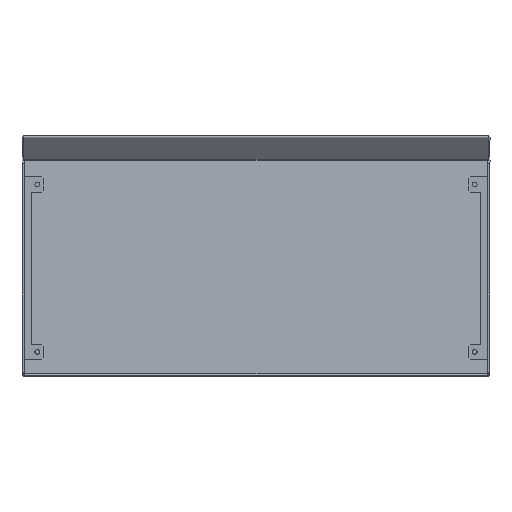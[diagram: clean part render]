
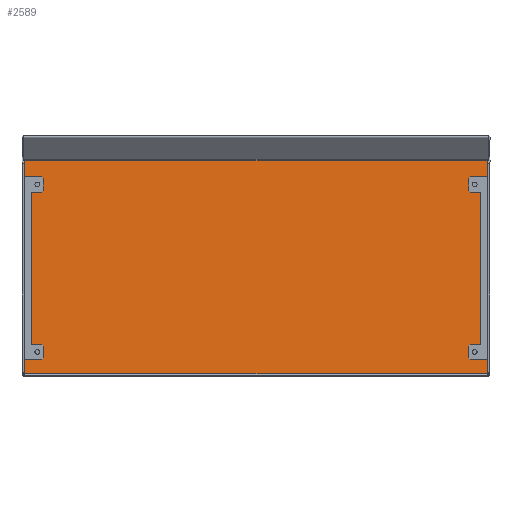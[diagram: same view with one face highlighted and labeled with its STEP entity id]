
A CAD part, front view. The second image highlights one B-rep face of the part: STEP entity #2589.
In plain terms, the highlighted planar face has unit normal (0, -0.998, 0.057).
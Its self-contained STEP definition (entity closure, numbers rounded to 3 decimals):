
#6 = LINE ( 'NONE', #4220, #3699 ) ;
#320 = CARTESIAN_POINT ( 'NONE',  ( 1.9, 18.718, 1.236 ) ) ;
#467 = DIRECTION ( 'NONE',  ( 0., -0.057, -0.998 ) ) ;
#588 = CARTESIAN_POINT ( 'NONE',  ( 604.1, 18.832, 3.236 ) ) ;
#601 = EDGE_CURVE ( 'NONE', #3526, #2054, #2268, .T. ) ;
#897 = EDGE_LOOP ( 'NONE', ( #3640, #3212, #2373, #2736 ) ) ;
#1178 = AXIS2_PLACEMENT_3D ( 'NONE', #1223, #1198, #467 ) ;
#1198 = DIRECTION ( 'NONE',  ( 0., -0.998, 0.057 ) ) ;
#1223 = CARTESIAN_POINT ( 'NONE',  ( 604.1, 34.652, 281.077 ) ) ;
#1332 = CARTESIAN_POINT ( 'NONE',  ( 1.9, 18.832, 3.236 ) ) ;
#1595 = VECTOR ( 'NONE', #3569, 1000. ) ;
#1630 = DIRECTION ( 'NONE',  ( -1., 0., 0. ) ) ;
#1703 = FACE_OUTER_BOUND ( 'NONE', #897, .T. ) ;
#1721 = VECTOR ( 'NONE', #3900, 1000. ) ;
#1807 = CARTESIAN_POINT ( 'NONE',  ( 602.2, 34.577, 279.751 ) ) ;
#1961 = LINE ( 'NONE', #588, #1721 ) ;
#2054 = VERTEX_POINT ( 'NONE', #3593 ) ;
#2258 = LINE ( 'NONE', #320, #1595 ) ;
#2268 = LINE ( 'NONE', #3577, #3342 ) ;
#2373 = ORIENTED_EDGE ( 'NONE', *, *, #2859, .F. ) ;
#2412 = EDGE_CURVE ( 'NONE', #2416, #3716, #2258, .T. ) ;
#2416 = VERTEX_POINT ( 'NONE', #1332 ) ;
#2589 = ADVANCED_FACE ( 'NONE', ( #1703 ), #3345, .T. ) ;
#2736 = ORIENTED_EDGE ( 'NONE', *, *, #601, .F. ) ;
#2859 = EDGE_CURVE ( 'NONE', #2054, #2416, #1961, .T. ) ;
#2908 = EDGE_CURVE ( 'NONE', #3526, #3716, #6, .T. ) ;
#3212 = ORIENTED_EDGE ( 'NONE', *, *, #2412, .F. ) ;
#3245 = DIRECTION ( 'NONE',  ( 0., -0.057, -0.998 ) ) ;
#3342 = VECTOR ( 'NONE', #3245, 1000. ) ;
#3345 = PLANE ( 'NONE',  #1178 ) ;
#3375 = CARTESIAN_POINT ( 'NONE',  ( 1.9, 34.577, 279.751 ) ) ;
#3526 = VERTEX_POINT ( 'NONE', #1807 ) ;
#3569 = DIRECTION ( 'NONE',  ( 0., 0.057, 0.998 ) ) ;
#3577 = CARTESIAN_POINT ( 'NONE',  ( 602.2, 34.698, 281.874 ) ) ;
#3593 = CARTESIAN_POINT ( 'NONE',  ( 602.2, 18.832, 3.236 ) ) ;
#3640 = ORIENTED_EDGE ( 'NONE', *, *, #2908, .T. ) ;
#3699 = VECTOR ( 'NONE', #1630, 1000. ) ;
#3716 = VERTEX_POINT ( 'NONE', #3375 ) ;
#3900 = DIRECTION ( 'NONE',  ( -1., 0., 0. ) ) ;
#4220 = CARTESIAN_POINT ( 'NONE',  ( 604.1, 34.577, 279.751 ) ) ;
